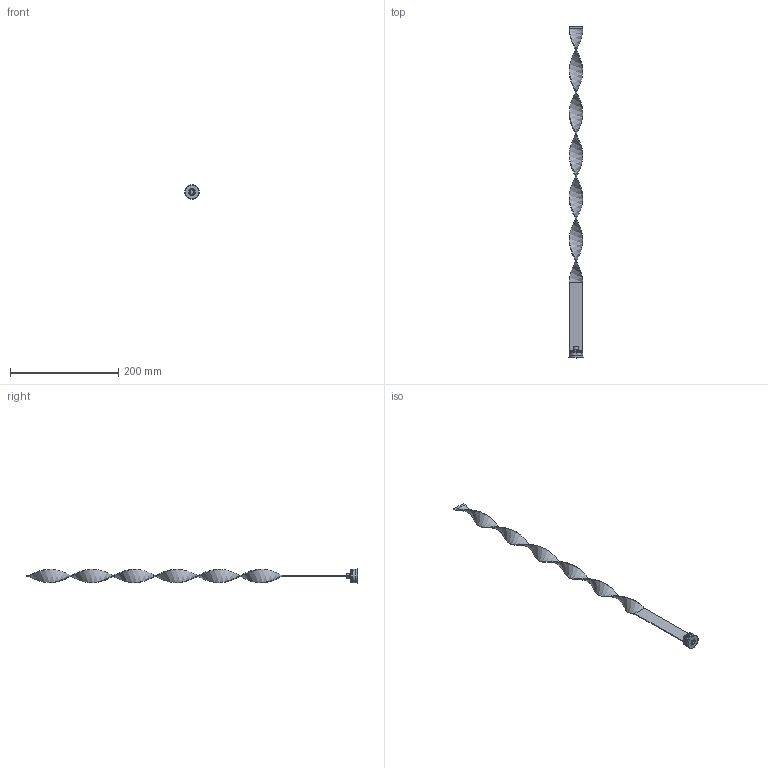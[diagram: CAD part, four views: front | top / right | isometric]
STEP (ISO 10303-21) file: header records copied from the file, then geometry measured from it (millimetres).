
FILE_DESCRIPTION (( 'STEP AP203' ), '1' );
FILE_NAME ('RLS-25Fx600.STEP', '2015-12-10T15:39:19', ( 'Balzi' ), ( '' ), 'SwSTEP 2.0', 'SolidWorks 2015', '' );
FILE_SCHEMA (( 'CONFIG_CONTROL_DESIGN' ));
Length unit declared in the file: millimetre
Products named in the file (1): RLS-25Fx600
Bounding box: 26.5 x 614 x 26.5 mm (x, y, z)
Volume: 29233.5 mm3; surface area: 35435.1 mm2
Topology: 1 solids, 1 shells, 83 faces, 193 edges, 117 vertices
Faces by surface type: plane 35, cone 19, cylinder 17, torus 8, bspline 4
Entity records: 5293 total; most frequent: CARTESIAN_POINT 3328, DIRECTION 406, ORIENTED_EDGE 386, EDGE_CURVE 193, AXIS2_PLACEMENT_3D 151, VERTEX_POINT 117, LINE 104, VECTOR 104
